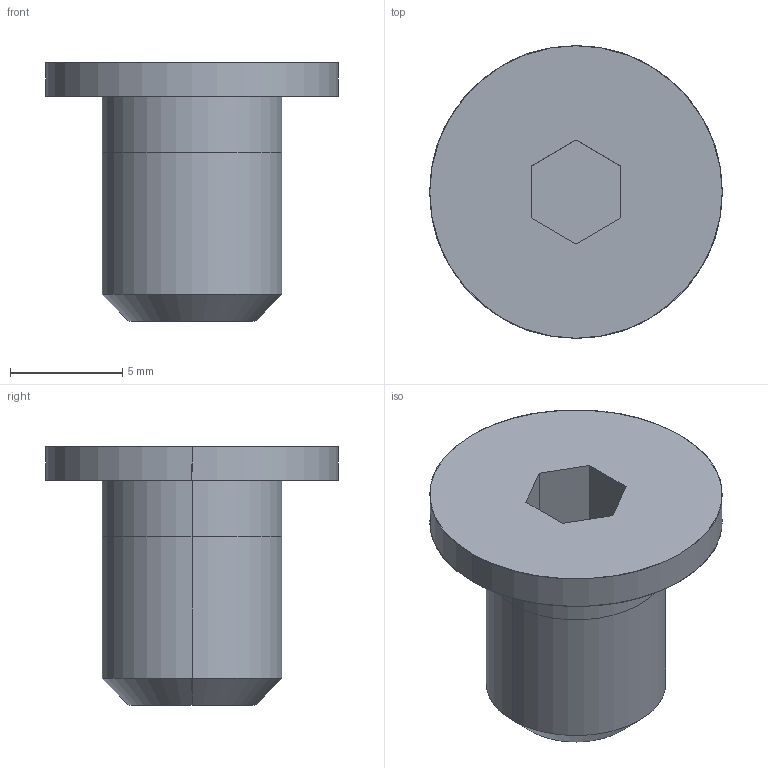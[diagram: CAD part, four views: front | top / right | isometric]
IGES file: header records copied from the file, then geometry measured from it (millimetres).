
Global section: file name: E:\UnigraphicsGraphicData\MISUMI_PRESS-PARTS\IGES\3d_cbss8-10_03503_r00.igs; native system: NX V5.0; preprocessor: UGS NX IGES V5.0; author: MISUMI; date: 20110105.160203; units: millimetre
Bounding box: 13 x 13 x 11.5 mm (x, y, z)
Surface area: 628.6 mm2 (no closed solid volume)
Topology: 0 solids, 0 shells, 18 faces, 100 edges, 100 vertices
Faces by surface type: bspline 18
